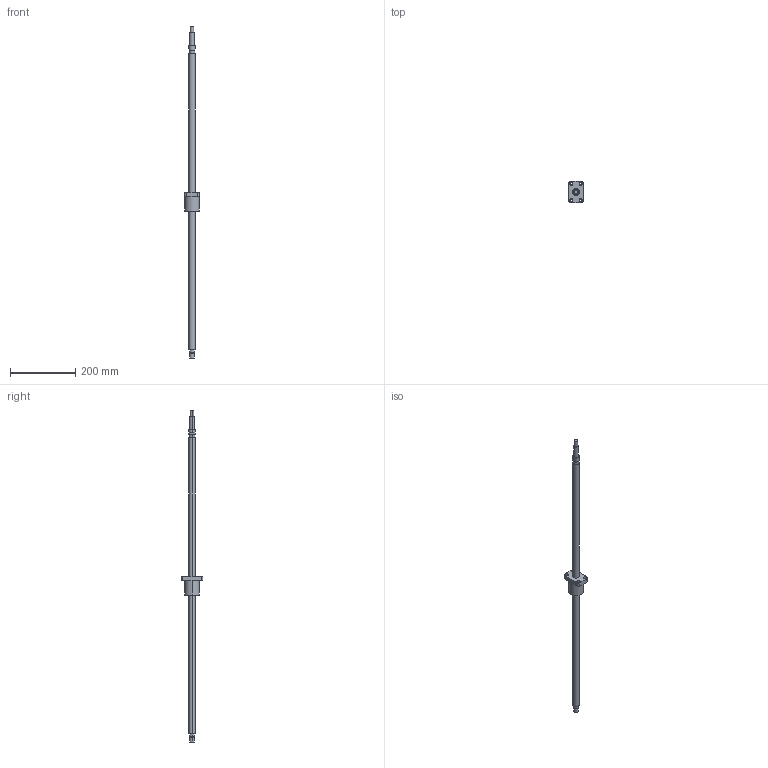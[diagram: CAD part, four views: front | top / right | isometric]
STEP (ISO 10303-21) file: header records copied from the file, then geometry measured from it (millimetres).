
FILE_DESCRIPTION((''),'2;1');
FILE_NAME('R20-20K2-FSC-910-1020','2008-04-03T',('wcwu'),(''),'PRO/ENGINEER BY PARAMETRIC TECHNOLOGY CORPORATION, 2005070','PRO/ENGINEER BY PARAMETRIC TECHNOLOGY CORPORATION, 2005070','');
FILE_SCHEMA(('CONFIG_CONTROL_DESIGN'));
Length unit declared in the file: millimetre
Products named in the file (1): R20-20K2-FSC-910-1020
Bounding box: 46 x 66 x 1020 mm (x, y, z)
Volume: 396870.2 mm3; surface area: 75311.1 mm2
Topology: 1 solids, 1 shells, 65 faces, 146 edges, 96 vertices
Faces by surface type: cylinder 40, plane 25
Entity records: 1906 total; most frequent: DIRECTION 360, CARTESIAN_POINT 307, ORIENTED_EDGE 292, AXIS2_PLACEMENT_3D 149, EDGE_CURVE 146, VERTEX_POINT 96, EDGE_LOOP 86, CIRCLE 84
